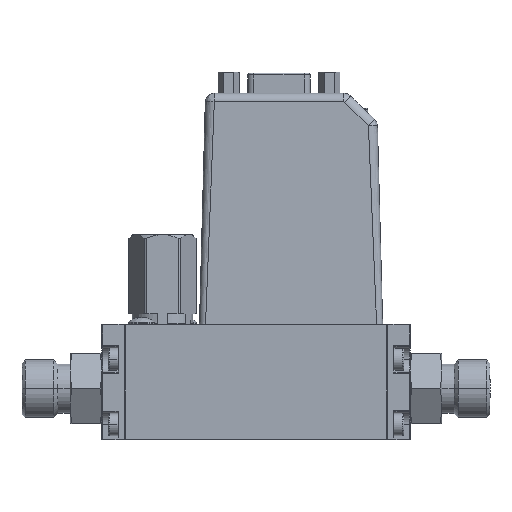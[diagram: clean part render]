
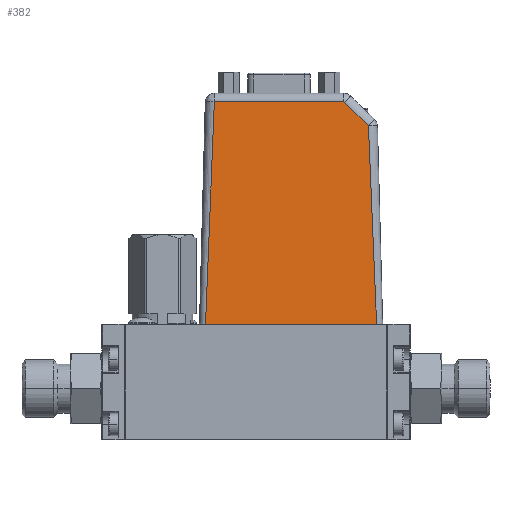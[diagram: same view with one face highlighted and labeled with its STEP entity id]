
A CAD part, top view. The second image highlights one B-rep face of the part: STEP entity #382.
In plain terms, the highlighted planar face has unit normal (0, 0.026, 1).
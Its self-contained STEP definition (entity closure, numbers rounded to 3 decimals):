
#299 = VECTOR ( 'NONE', #9338, 1000. ) ;
#382 = ADVANCED_FACE ( 'NONE', ( #22700 ), #23169, .T. ) ;
#1849 = EDGE_CURVE ( 'NONE', #3703, #25227, #18250, .T. ) ;
#2003 = ORIENTED_EDGE ( 'NONE', *, *, #24056, .T. ) ;
#2129 = CARTESIAN_POINT ( 'NONE',  ( 53.101, 0., 12.4 ) ) ;
#3703 = VERTEX_POINT ( 'NONE', #33799 ) ;
#4479 = CARTESIAN_POINT ( 'NONE',  ( 51.062, 49.228, 11.111 ) ) ;
#4483 = CARTESIAN_POINT ( 'NONE',  ( 54.6, 0., 12.4 ) ) ;
#4677 = B_SPLINE_CURVE_WITH_KNOTS ( 'NONE', 3,
 ( #22960, #25631, #9608, #28330 ),
 .UNSPECIFIED., .F., .F.,
 ( 4, 4 ),
 ( 0.4, 0.588 ),
 .UNSPECIFIED. ) ;
#4874 = CARTESIAN_POINT ( 'NONE',  ( 10.684, 0., 12.4 ) ) ;
#5007 = CARTESIAN_POINT ( 'NONE',  ( 10.684, 0., 12.4 ) ) ;
#6558 = CARTESIAN_POINT ( 'NONE',  ( 44.997, 55.058, 10.958 ) ) ;
#7680 = CARTESIAN_POINT ( 'NONE',  ( 45.137, 55.001, 10.96 ) ) ;
#8254 = ORIENTED_EDGE ( 'NONE', *, *, #17817, .F. ) ;
#9338 = DIRECTION ( 'NONE',  ( -0.716, 0.698, -0.018 ) ) ;
#9608 = CARTESIAN_POINT ( 'NONE',  ( 51.515, 32.813, 11.541 ) ) ;
#9844 = DIRECTION ( 'NONE',  ( 0., 0.026, 1. ) ) ;
#10388 = CARTESIAN_POINT ( 'NONE',  ( 45.099, 55.038, 10.959 ) ) ;
#11162 = EDGE_CURVE ( 'NONE', #12283, #3703, #14500, .T. ) ;
#11783 = VECTOR ( 'NONE', #17151, 1000. ) ;
#11962 = ORIENTED_EDGE ( 'NONE', *, *, #1849, .T. ) ;
#12283 = VERTEX_POINT ( 'NONE', #4479 ) ;
#13070 = CARTESIAN_POINT ( 'NONE',  ( 44.997, 55.058, 10.958 ) ) ;
#13493 = ORIENTED_EDGE ( 'NONE', *, *, #13838, .T. ) ;
#13838 = EDGE_CURVE ( 'NONE', #34468, #25485, #27226, .T. ) ;
#14493 = CARTESIAN_POINT ( 'NONE',  ( 54.6, 55.058, 10.958 ) ) ;
#14500 = LINE ( 'NONE', #19992, #299 ) ;
#15491 = CARTESIAN_POINT ( 'NONE',  ( 12.341, 36.7, 11.439 ) ) ;
#17151 = DIRECTION ( 'NONE',  ( -1., 0., 0. ) ) ;
#17817 = EDGE_CURVE ( 'NONE', #31858, #25485, #28165, .T. ) ;
#18250 =( BOUNDED_CURVE ( )  B_SPLINE_CURVE ( 3, ( #7680, #10388, #23714, #13070 ),
 .UNSPECIFIED., .F., .F. ) 
 B_SPLINE_CURVE_WITH_KNOTS ( ( 4, 4 ),
 ( 5.511, 6.283 ),
 .UNSPECIFIED. ) 
 CURVE ( )  GEOMETRIC_REPRESENTATION_ITEM ( )  RATIONAL_B_SPLINE_CURVE ( ( 1., 0.951, 0.951, 1. ) ) 
 REPRESENTATION_ITEM ( '' )  );
#19144 = DIRECTION ( 'NONE',  ( -1., 0., 0. ) ) ;
#19932 = AXIS2_PLACEMENT_3D ( 'NONE', #4483, #9844, #28532 ) ;
#19992 = CARTESIAN_POINT ( 'NONE',  ( 77.491, 23.479, 11.785 ) ) ;
#20871 = CARTESIAN_POINT ( 'NONE',  ( 11.165, 18.359, 11.919 ) ) ;
#22700 = FACE_OUTER_BOUND ( 'NONE', #27067, .T. ) ;
#22960 = CARTESIAN_POINT ( 'NONE',  ( 53.101, 0., 12.4 ) ) ;
#23169 = PLANE ( 'NONE',  #19932 ) ;
#23714 = CARTESIAN_POINT ( 'NONE',  ( 45.05, 55.058, 10.958 ) ) ;
#24056 = EDGE_CURVE ( 'NONE', #25227, #34468, #33111, .T. ) ;
#25227 = VERTEX_POINT ( 'NONE', #6558 ) ;
#25485 = VERTEX_POINT ( 'NONE', #5007 ) ;
#25631 = CARTESIAN_POINT ( 'NONE',  ( 52.669, 16.416, 11.97 ) ) ;
#27067 = EDGE_LOOP ( 'NONE', ( #33592, #34093, #11962, #2003, #13493, #8254 ) ) ;
#27210 = CARTESIAN_POINT ( 'NONE',  ( 54.6, 0., 12.4 ) ) ;
#27226 = B_SPLINE_CURVE_WITH_KNOTS ( 'NONE', 3,
 ( #34215, #15491, #20871, #4874 ),
 .UNSPECIFIED., .F., .F.,
 ( 4, 4 ),
 ( 0.407, 0.6 ),
 .UNSPECIFIED. ) ;
#28165 = LINE ( 'NONE', #27210, #33610 ) ;
#28330 = CARTESIAN_POINT ( 'NONE',  ( 51.062, 49.228, 11.111 ) ) ;
#28446 = CARTESIAN_POINT ( 'NONE',  ( 12.872, 55.058, 10.958 ) ) ;
#28532 = DIRECTION ( 'NONE',  ( 0., 1., -0.026 ) ) ;
#28990 = EDGE_CURVE ( 'NONE', #31858, #12283, #4677, .T. ) ;
#31858 = VERTEX_POINT ( 'NONE', #2129 ) ;
#33111 = LINE ( 'NONE', #14493, #11783 ) ;
#33592 = ORIENTED_EDGE ( 'NONE', *, *, #28990, .T. ) ;
#33610 = VECTOR ( 'NONE', #19144, 1000. ) ;
#33799 = CARTESIAN_POINT ( 'NONE',  ( 45.137, 55.001, 10.96 ) ) ;
#34093 = ORIENTED_EDGE ( 'NONE', *, *, #11162, .T. ) ;
#34215 = CARTESIAN_POINT ( 'NONE',  ( 12.872, 55.058, 10.958 ) ) ;
#34468 = VERTEX_POINT ( 'NONE', #28446 ) ;
